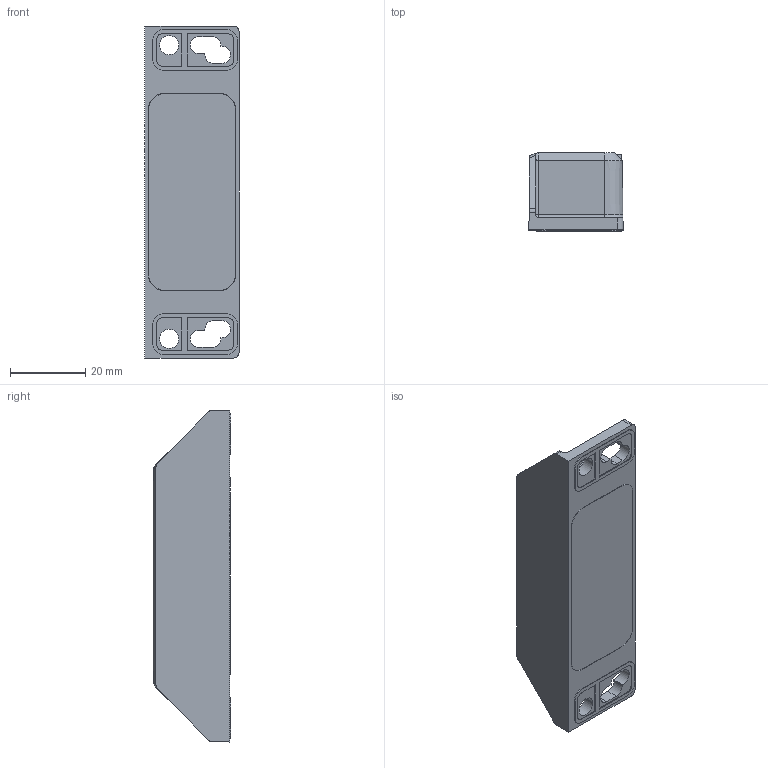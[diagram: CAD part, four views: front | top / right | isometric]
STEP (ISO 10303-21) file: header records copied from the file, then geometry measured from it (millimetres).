
FILE_DESCRIPTION((''),'2;1');
FILE_NAME('10000000783_SW0001','2011-09-14T',('ajmancus'),('Rockwell Automation'),'PRO/ENGINEER BY PARAMETRIC TECHNOLOGY CORPORATION, 2010140','PRO/ENGINEER BY PARAMETRIC TECHNOLOGY CORPORATION, 2010140','');
FILE_SCHEMA(('CONFIG_CONTROL_DESIGN'));
Length unit declared in the file: inch
Products named in the file (1): 10000000783_SW0001
Bounding box: 24.99 x 20.65 x 88.14 mm (x, y, z)
Volume: 29741 mm3; surface area: 8670.4 mm2
Topology: 1 solids, 1 shells, 143 faces, 374 edges, 242 vertices
Faces by surface type: plane 76, cylinder 49, cone 10, torus 6, sphere 2
Entity records: 4512 total; most frequent: CARTESIAN_POINT 902, ORIENTED_EDGE 748, DIRECTION 730, EDGE_CURVE 374, VECTOR 246, LINE 246, AXIS2_PLACEMENT_3D 242, VERTEX_POINT 242
